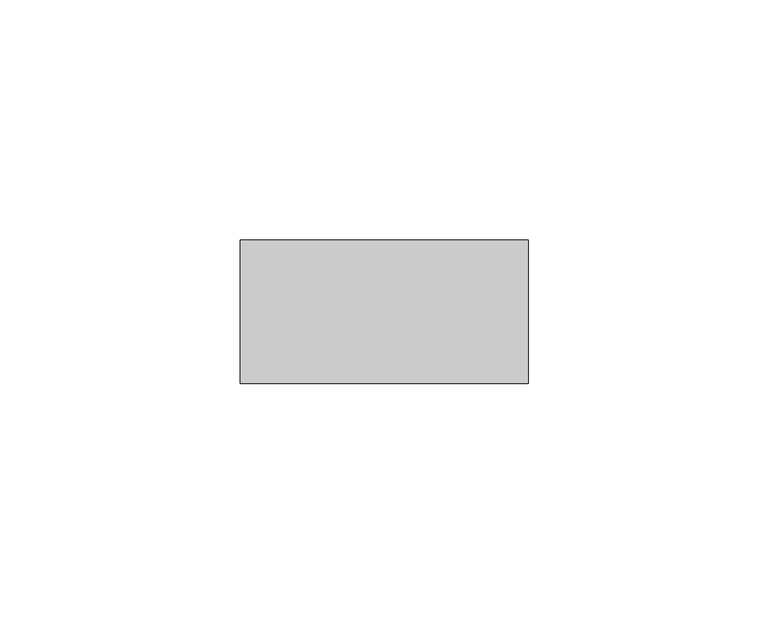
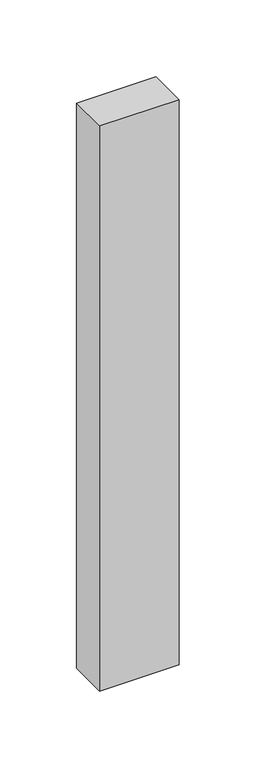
"""IFC4 building model written with IfcOpenShell, lengths in millimetres: member geometry, Прямоугольный импост : Квадрат 30 мм."""

import ifcopenshell
import ifcopenshell.guid

model = None  # the IFC model being written
_history = None  # IfcOwnerHistory: only IFC2X3 demands one
_inside = {}  # id of a spatial element -> (the spatial element, [elements in it])
_under = {}  # id of a project, library or spatial element -> (it, [spatial elements below it])
_declared = {}  # id of a project -> (the project, [libraries it declares])
_typed = {}  # id of a type object -> (the type object, [elements of that type])
_made_of = {}  # id of a material, layer set ... -> (it, [elements and type objects made of it])


def new_model(schema):
    """Start an empty IFC model of exactly this schema.

    Asked for "IFC4X3", IfcOpenShell would pick the latest addendum, in which some entities
    have other attributes; the version numbers below select the first issue.
    IFC2X3 requires an IfcOwnerHistory on every rooted entity: one is made here for all.
    """
    global model, _history
    if schema == "IFC4X3":
        model = ifcopenshell.file(schema_version=(4, 3, 0, 0))
    else:
        model = ifcopenshell.file(schema=schema)
    _inside.clear()
    _under.clear()
    _declared.clear()
    _typed.clear()
    _made_of.clear()
    _history = None
    if model.schema == "IFC2X3":
        org = make("IfcOrganization", Name="unknown")
        user = make(
            "IfcPersonAndOrganization",
            ThePerson=make("IfcPerson", FamilyName="unknown"),
            TheOrganization=org,
        )
        app = make(
            "IfcApplication",
            ApplicationDeveloper=org,
            Version="unknown",
            ApplicationFullName="unknown",
            ApplicationIdentifier="unknown",
        )
        _history = make(
            "IfcOwnerHistory",
            OwningUser=user,
            OwningApplication=app,
            ChangeAction="ADDED",
            CreationDate=0,
        )
    return model


def make(cls, **values):
    """One entity of the class cls with the attributes given. An attribute that is None is left unset."""
    return model.create_entity(
        cls, **{name: value for name, value in values.items() if value is not None}
    )


def rooted(cls, **values):
    """An entity with a GlobalId (a new one), such as an element, a storey or a relation."""
    return make(cls, GlobalId=ifcopenshell.guid.new(), OwnerHistory=_history, **values)


def si_unit(unit_type, name, prefix=None):
    """IfcSIUnit, for example si_unit("LENGTHUNIT", "METRE", prefix="MILLI")."""
    return make("IfcSIUnit", UnitType=unit_type, Prefix=prefix, Name=name)


def assignment(units):
    """IfcUnitAssignment: the units of a project."""
    return None if units is None else make("IfcUnitAssignment", Units=units)


def point(xyz):
    """IfcCartesianPoint."""
    return None if xyz is None else make("IfcCartesianPoint", Coordinates=xyz)


def direction(xyz):
    """IfcDirection."""
    return None if xyz is None else make("IfcDirection", DirectionRatios=xyz)


def frame(location, z_axis=None, x_axis=None):
    """IfcAxis2Placement3D, a coordinate frame: its origin and axes. An axis left out is left unset."""
    return make(
        "IfcAxis2Placement3D",
        Location=point(location),
        Axis=direction(z_axis),
        RefDirection=direction(x_axis),
    )


def origin():
    """The frame at (0, 0, 0) with its axes left unset."""
    return frame((0.0, 0.0, 0.0))


def place(relative_to, where):
    """IfcLocalPlacement: puts the frame where relative to a parent placement (None: the world)."""
    return make(
        "IfcLocalPlacement", PlacementRelTo=relative_to, RelativePlacement=where
    )


def context(
    kind, dimensions, precision=None, world=None, true_north=None, identifier=None
):
    """IfcGeometricRepresentationContext, for example the 3D "Model" context."""
    return make(
        "IfcGeometricRepresentationContext",
        ContextIdentifier=identifier,
        ContextType=kind,
        CoordinateSpaceDimension=dimensions,
        Precision=precision,
        WorldCoordinateSystem=world,
        TrueNorth=true_north,
    )


def project(units=None, contexts=None):
    """IfcProject with its units and contexts."""
    return rooted(
        "IfcProject",
        Name="project",
        RepresentationContexts=contexts,
        UnitsInContext=assignment(units),
    )


def spatial(cls, under=None, at=None, **own):
    """A site, building, storey or space (cls), placed at a placement, below another one or the project."""
    s = rooted(cls, ObjectPlacement=at, **own)
    if under is not None:
        _under.setdefault(under.id(), (under, []))[1].append(s)
    return s


def polyline(points):
    """IfcPolyline through the points."""
    return make("IfcPolyline", Points=[point(p) for p in points])


def outline(outer, holes=None, kind="AREA"):
    """IfcArbitraryClosedProfileDef: a profile drawn as a closed curve; with holes, ...WithVoids."""
    if holes is None:
        return make("IfcArbitraryClosedProfileDef", ProfileType=kind, OuterCurve=outer)
    return make(
        "IfcArbitraryProfileDefWithVoids",
        ProfileType=kind,
        OuterCurve=outer,
        InnerCurves=holes,
    )


def extrude(swept, where, along, depth):
    """IfcExtrudedAreaSolid: the profile swept, set in the frame where, extruded along a direction by depth."""
    return make(
        "IfcExtrudedAreaSolid",
        SweptArea=swept,
        Position=where,
        ExtrudedDirection=direction(along),
        Depth=depth,
    )


def shape(context_of_items, identifier, shape_type, items):
    """IfcShapeRepresentation: the items that make up one representation, for example the "Body"."""
    return make(
        "IfcShapeRepresentation",
        ContextOfItems=context_of_items,
        RepresentationIdentifier=identifier,
        RepresentationType=shape_type,
        Items=items,
    )


def source(mapping_origin, context_of_items, identifier, shape_type, items):
    """IfcRepresentationMap: a shape defined once, which mapped items show again and again."""
    return make(
        "IfcRepresentationMap",
        MappingOrigin=mapping_origin,
        MappedRepresentation=shape(context_of_items, identifier, shape_type, items),
    )


def transform(
    local_origin,
    x_axis=None,
    y_axis=None,
    z_axis=None,
    scale=None,
    scale2=None,
    scale3=None,
    uniform=True,
):
    """IfcCartesianTransformationOperator3D, or its non-uniform kind. x_axis, y_axis, z_axis: its Axis1, 2, 3."""
    if uniform:
        return make(
            "IfcCartesianTransformationOperator3D",
            Axis1=direction(x_axis),
            Axis2=direction(y_axis),
            LocalOrigin=point(local_origin),
            Scale=scale,
            Axis3=direction(z_axis),
        )
    return make(
        "IfcCartesianTransformationOperator3DnonUniform",
        Axis1=direction(x_axis),
        Axis2=direction(y_axis),
        LocalOrigin=point(local_origin),
        Scale=scale,
        Axis3=direction(z_axis),
        Scale2=scale2,
        Scale3=scale3,
    )


def mapped(mapping_source, mapping_target):
    """IfcMappedItem: shows the shape of a source again, moved by a transform."""
    return make(
        "IfcMappedItem", MappingSource=mapping_source, MappingTarget=mapping_target
    )


def made_of(thing, what):
    """Note that an element or type object is made of a material, layer set ...; save() writes the relation."""
    if what is not None:
        _made_of.setdefault(what.id(), (what, []))[1].append(thing)
    return thing


def element(
    cls,
    number,
    at=None,
    inside=None,
    cuts=None,
    type_object=None,
    material=None,
    context=None,
    identifier="Body",
    shape_type=None,
    held_by="IfcProductDefinitionShape",
    body=None,
    shapes=None,
    **own,
):
    """One element of the class cls, such as IfcWall. Its Tag is "e" and its number.

    at: its placement. inside: the storey or other place that contains it. cuts: it is an
    opening in that element (IfcRelVoidsElement). A single representation is given by context,
    identifier, shape_type and body (its items); several are given by shapes. held_by: the class
    of the entity that holds the representations. save() writes the other relations.
    """
    e = rooted(cls, Tag="e%d" % number, ObjectPlacement=at, **own)
    if body is not None:
        shapes = [shape(context, identifier, shape_type, body)]
    if shapes is not None:
        e.Representation = make(held_by, Representations=shapes)
    if inside is not None:
        _inside.setdefault(inside.id(), (inside, []))[1].append(e)
    if cuts is not None:
        rooted(
            "IfcRelVoidsElement", RelatingBuildingElement=cuts, RelatedOpeningElement=e
        )
    if type_object is not None:
        _typed.setdefault(type_object.id(), (type_object, []))[1].append(e)
    return made_of(e, material)


def aggregate(whole, parts):
    """IfcRelAggregates: a whole, such as a stair, and the parts it consists of."""
    return rooted("IfcRelAggregates", RelatingObject=whole, RelatedObjects=parts)


def save(model, path):
    """Write the relations noted so far, then the file.

    IfcRelAggregates (storeys below a building ...), IfcRelContainedInSpatialStructure (elements
    in a storey), IfcRelDefinesByType, IfcRelAssociatesMaterial and IfcRelDeclares: one each for
    every whole, place, type object, material and project.
    """
    for whole, parts in _under.values():
        aggregate(whole, parts)
    for where, things in _inside.values():
        rooted(
            "IfcRelContainedInSpatialStructure",
            RelatedElements=things,
            RelatingStructure=where,
        )
    for kind, things in _typed.values():
        rooted("IfcRelDefinesByType", RelatedObjects=things, RelatingType=kind)
    for what, things in _made_of.values():
        rooted("IfcRelAssociatesMaterial", RelatedObjects=things, RelatingMaterial=what)
    for by, libraries in _declared.values():
        rooted("IfcRelDeclares", RelatingContext=by, RelatedDefinitions=libraries)
    model.write(path)


def member_0e0cf5e3(model_context):
    return source(origin(), model_context, "Body", "SweptSolid", [
        extrude(outline(polyline([(30.0, 15.0), (30.0, -15.0), (-30.0, -15.0), (-30.0, 15.0), (30.0, 15.0)])), frame((0.0, 0.0, -450.0), z_axis=(0.0, 0.0, 1.0), x_axis=(1.0, 0.0, 0.0)), (0.0, 0.0, 1.0), 450.0),
    ])


if __name__ == "__main__":
    model = new_model("IFC4")
    model_context = context("Model", 3, world=origin())
    ifc_project = project(units=[si_unit("LENGTHUNIT", "METRE", prefix="MILLI")], contexts=[model_context])
    site = spatial("IfcSite", under=ifc_project)
    building = spatial("IfcBuilding", under=site)
    placement = place(None, origin())
    member_shape = member_0e0cf5e3(model_context)
    element("IfcMember", 1, ObjectType="Прямоугольный импост : Квадрат 30 мм", at=placement, inside=building, context=model_context, shape_type="MappedRepresentation", body=[
        mapped(member_shape, transform((0.0, 0.0, 0.0), x_axis=(1.0, 0.0, 0.0), y_axis=(0.0, 1.0, 0.0), z_axis=(0.0, 0.0, 1.0))),
    ])
    save(model, "model.ifc")
